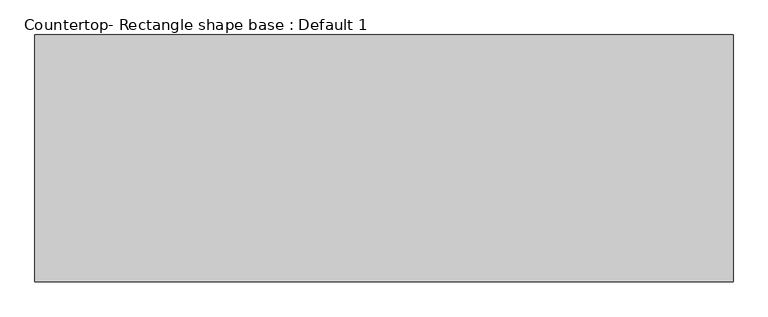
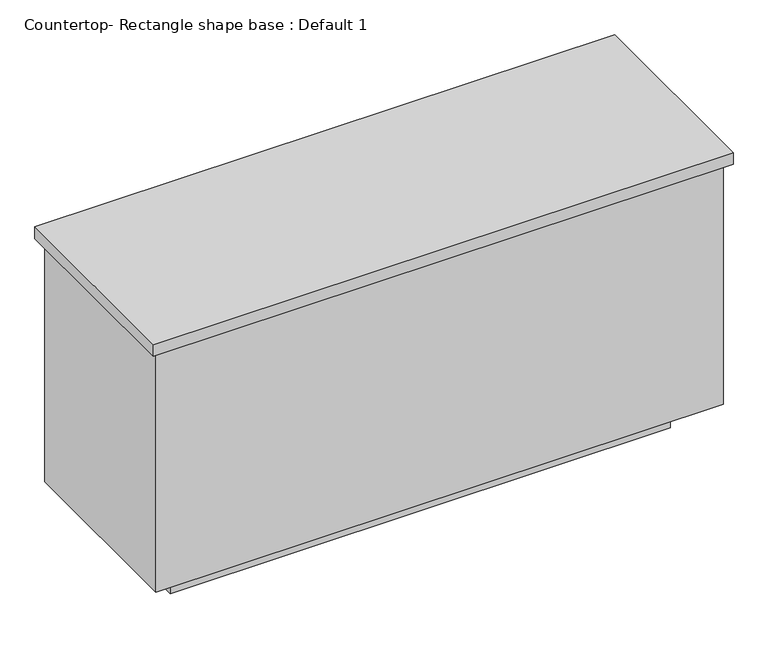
"""IFC4 building model written with IfcOpenShell, lengths in millimetres: proxy geometry, Countertop- Rectangle shape base : Default 1."""

from ifc_helpers import new_model, si_unit, frame, origin, origin_with_axes, place, context, project, spatial, polyline, outline, extrude, source, transform, mapped, element, save


def countertop_rectangle_shape_base_default_1_3828c231(model_context):
    return source(origin(), model_context, "Body", "SweptSolid", [
        extrude(outline(polyline([(-117.475, 69.85), (-117.475, 692.15), (1641.475, 692.15), (1641.475, 69.85), (-117.475, 69.85)])), frame((0.0, 0.0, 876.3), z_axis=(0.0, 0.0, 1.0), x_axis=(1.0, 0.0, 0.0)), (0.0, 0.0, 1.0), 38.1),
        extrude(outline(polyline([(1622.425, 673.1), (1622.425, 88.9), (-98.425, 88.9), (-98.425, 673.1), (1622.425, 673.1)])), frame((0.0, 0.0, 101.6), z_axis=(0.0, 0.0, 1.0), x_axis=(1.0, 0.0, 0.0)), (0.0, 0.0, 1.0), 774.7),
        extrude(outline(polyline([(1520.825, 571.5), (1520.825, 190.5), (3.175, 190.5), (3.175, 571.5), (1520.825, 571.5)])), origin_with_axes(), (0.0, 0.0, 1.0), 101.6),
    ])


if __name__ == "__main__":
    model = new_model("IFC4")
    model_context = context("Model", 3, world=origin())
    ifc_project = project(units=[si_unit("LENGTHUNIT", "METRE", prefix="MILLI")], contexts=[model_context])
    site = spatial("IfcSite", under=ifc_project)
    building = spatial("IfcBuilding", under=site)
    placement = place(None, origin())
    countertop_rectangle_shape_base_default_1_shape = countertop_rectangle_shape_base_default_1_3828c231(model_context)
    element("IfcBuildingElementProxy", 1, Name="Countertop- Rectangle shape base : Default 1", ObjectType="Countertop- Rectangle shape base : Default 1", at=placement, inside=building, context=model_context, shape_type="MappedRepresentation", body=[
        mapped(countertop_rectangle_shape_base_default_1_shape, transform((0.0, 0.0, 0.0), x_axis=(1.0, 0.0, 0.0), y_axis=(0.0, 1.0, 0.0), z_axis=(0.0, 0.0, 1.0))),
    ])
    save(model, "model.ifc")
